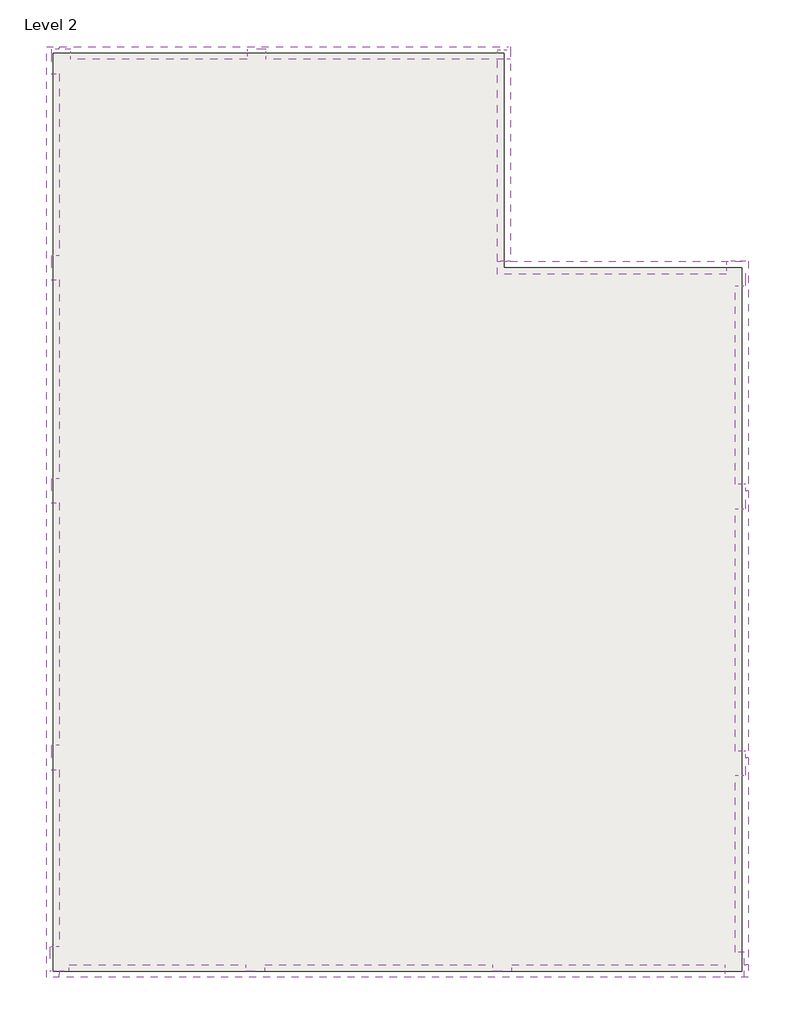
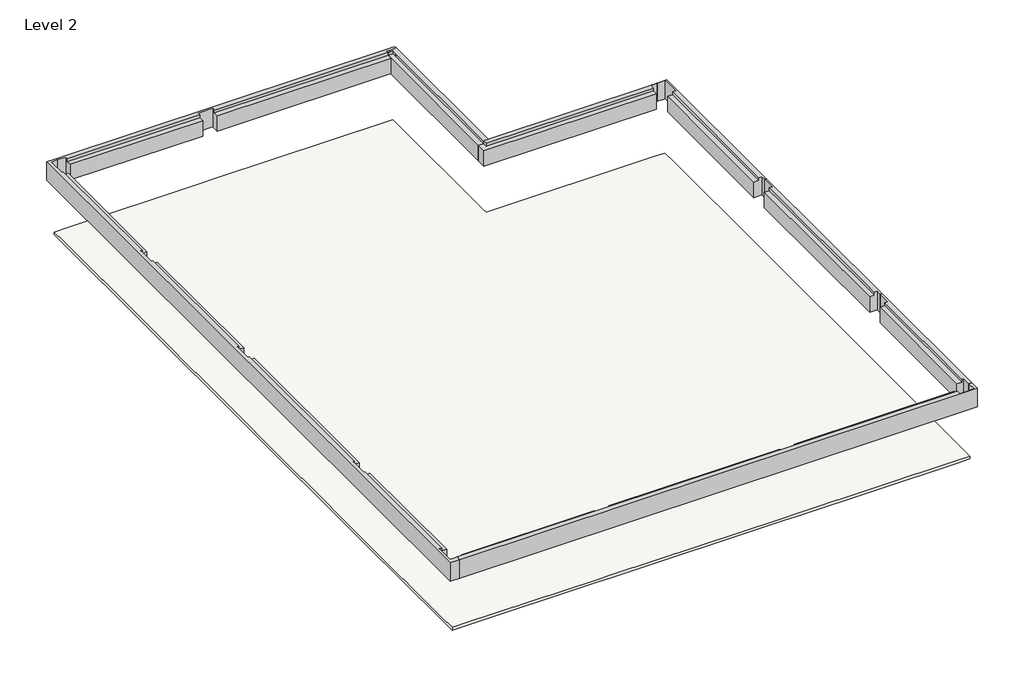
# One storey: 8 beams, 1 slab.
"""IFC4 building model written with IfcOpenShell, lengths in millimetres."""

import ifcopenshell
import ifcopenshell.guid

model = None  # the IFC model being written
_history = None  # IfcOwnerHistory: only IFC2X3 demands one
_inside = {}  # id of a spatial element -> (the spatial element, [elements in it])
_under = {}  # id of a project, library or spatial element -> (it, [spatial elements below it])
_declared = {}  # id of a project -> (the project, [libraries it declares])
_typed = {}  # id of a type object -> (the type object, [elements of that type])
_made_of = {}  # id of a material, layer set ... -> (it, [elements and type objects made of it])


def new_model(schema):
    """Start an empty IFC model of exactly this schema.

    Asked for "IFC4X3", IfcOpenShell would pick the latest addendum, in which some entities
    have other attributes; the version numbers below select the first issue.
    IFC2X3 requires an IfcOwnerHistory on every rooted entity: one is made here for all.
    """
    global model, _history
    if schema == "IFC4X3":
        model = ifcopenshell.file(schema_version=(4, 3, 0, 0))
    else:
        model = ifcopenshell.file(schema=schema)
    _inside.clear()
    _under.clear()
    _declared.clear()
    _typed.clear()
    _made_of.clear()
    _history = None
    if model.schema == "IFC2X3":
        org = make("IfcOrganization", Name="unknown")
        user = make(
            "IfcPersonAndOrganization",
            ThePerson=make("IfcPerson", FamilyName="unknown"),
            TheOrganization=org,
        )
        app = make(
            "IfcApplication",
            ApplicationDeveloper=org,
            Version="unknown",
            ApplicationFullName="unknown",
            ApplicationIdentifier="unknown",
        )
        _history = make(
            "IfcOwnerHistory",
            OwningUser=user,
            OwningApplication=app,
            ChangeAction="ADDED",
            CreationDate=0,
        )
    return model


def make(cls, **values):
    """One entity of the class cls with the attributes given. An attribute that is None is left unset."""
    return model.create_entity(
        cls, **{name: value for name, value in values.items() if value is not None}
    )


def rooted(cls, **values):
    """An entity with a GlobalId (a new one), such as an element, a storey or a relation."""
    return make(cls, GlobalId=ifcopenshell.guid.new(), OwnerHistory=_history, **values)


def si_unit(unit_type, name, prefix=None):
    """IfcSIUnit, for example si_unit("LENGTHUNIT", "METRE", prefix="MILLI")."""
    return make("IfcSIUnit", UnitType=unit_type, Prefix=prefix, Name=name)


def assignment(units):
    """IfcUnitAssignment: the units of a project."""
    return None if units is None else make("IfcUnitAssignment", Units=units)


def point(xyz):
    """IfcCartesianPoint."""
    return None if xyz is None else make("IfcCartesianPoint", Coordinates=xyz)


def direction(xyz):
    """IfcDirection."""
    return None if xyz is None else make("IfcDirection", DirectionRatios=xyz)


def frame(location, z_axis=None, x_axis=None):
    """IfcAxis2Placement3D, a coordinate frame: its origin and axes. An axis left out is left unset."""
    return make(
        "IfcAxis2Placement3D",
        Location=point(location),
        Axis=direction(z_axis),
        RefDirection=direction(x_axis),
    )


def origin():
    """The frame at (0, 0, 0) with its axes left unset."""
    return frame((0.0, 0.0, 0.0))


def place(relative_to, where):
    """IfcLocalPlacement: puts the frame where relative to a parent placement (None: the world)."""
    return make(
        "IfcLocalPlacement", PlacementRelTo=relative_to, RelativePlacement=where
    )


def context(
    kind, dimensions, precision=None, world=None, true_north=None, identifier=None
):
    """IfcGeometricRepresentationContext, for example the 3D "Model" context."""
    return make(
        "IfcGeometricRepresentationContext",
        ContextIdentifier=identifier,
        ContextType=kind,
        CoordinateSpaceDimension=dimensions,
        Precision=precision,
        WorldCoordinateSystem=world,
        TrueNorth=true_north,
    )


def project(units=None, contexts=None):
    """IfcProject with its units and contexts."""
    return rooted(
        "IfcProject",
        Name="project",
        RepresentationContexts=contexts,
        UnitsInContext=assignment(units),
    )


def spatial(cls, under=None, at=None, **own):
    """A site, building, storey or space (cls), placed at a placement, below another one or the project."""
    s = rooted(cls, ObjectPlacement=at, **own)
    if under is not None:
        _under.setdefault(under.id(), (under, []))[1].append(s)
    return s


def faces_of(points, faces, orient=None, outer=None):
    """IfcFace entities. A face is a list of loops; a loop is a list of indices into points, from 0.

    orient and outer hold one flag for each loop. By default every Orientation is true, the
    first loop of a face is its IfcFaceOuterBound and the others are IfcFaceBound.
    """
    made = []
    for i, loops in enumerate(faces):
        bounds = []
        for j, loop in enumerate(loops):
            is_outer = j == 0 if outer is None else outer[i][j]
            bounds.append(
                make(
                    "IfcFaceOuterBound" if is_outer else "IfcFaceBound",
                    Bound=make("IfcPolyLoop", Polygon=[points[k] for k in loop]),
                    Orientation=True if orient is None else orient[i][j],
                )
            )
        made.append(make("IfcFace", Bounds=bounds))
    return made


def faceted_brep(points, faces, orient=None, outer=None, voids=None):
    """IfcFacetedBrep: a solid bounded by flat faces; with voids (closed shells), ...WithVoids."""
    shared = [point(p) for p in points]
    hull = make("IfcClosedShell", CfsFaces=faces_of(shared, faces, orient, outer))
    if voids is None:
        return make("IfcFacetedBrep", Outer=hull)
    return make(
        "IfcFacetedBrepWithVoids",
        Outer=hull,
        Voids=[
            make(cls, CfsFaces=faces_of(shared, fs, o, b)) for cls, fs, o, b in voids
        ],
    )


def shape(context_of_items, identifier, shape_type, items):
    """IfcShapeRepresentation: the items that make up one representation, for example the "Body"."""
    return make(
        "IfcShapeRepresentation",
        ContextOfItems=context_of_items,
        RepresentationIdentifier=identifier,
        RepresentationType=shape_type,
        Items=items,
    )


def made_of(thing, what):
    """Note that an element or type object is made of a material, layer set ...; save() writes the relation."""
    if what is not None:
        _made_of.setdefault(what.id(), (what, []))[1].append(thing)
    return thing


def element(
    cls,
    number,
    at=None,
    inside=None,
    cuts=None,
    type_object=None,
    material=None,
    context=None,
    identifier="Body",
    shape_type=None,
    held_by="IfcProductDefinitionShape",
    body=None,
    shapes=None,
    **own,
):
    """One element of the class cls, such as IfcWall. Its Tag is "e" and its number.

    at: its placement. inside: the storey or other place that contains it. cuts: it is an
    opening in that element (IfcRelVoidsElement). A single representation is given by context,
    identifier, shape_type and body (its items); several are given by shapes. held_by: the class
    of the entity that holds the representations. save() writes the other relations.
    """
    e = rooted(cls, Tag="e%d" % number, ObjectPlacement=at, **own)
    if body is not None:
        shapes = [shape(context, identifier, shape_type, body)]
    if shapes is not None:
        e.Representation = make(held_by, Representations=shapes)
    if inside is not None:
        _inside.setdefault(inside.id(), (inside, []))[1].append(e)
    if cuts is not None:
        rooted(
            "IfcRelVoidsElement", RelatingBuildingElement=cuts, RelatedOpeningElement=e
        )
    if type_object is not None:
        _typed.setdefault(type_object.id(), (type_object, []))[1].append(e)
    return made_of(e, material)


def aggregate(whole, parts):
    """IfcRelAggregates: a whole, such as a stair, and the parts it consists of."""
    return rooted("IfcRelAggregates", RelatingObject=whole, RelatedObjects=parts)


def save(model, path):
    """Write the relations noted so far, then the file.

    IfcRelAggregates (storeys below a building ...), IfcRelContainedInSpatialStructure (elements
    in a storey), IfcRelDefinesByType, IfcRelAssociatesMaterial and IfcRelDeclares: one each for
    every whole, place, type object, material and project.
    """
    for whole, parts in _under.values():
        aggregate(whole, parts)
    for where, things in _inside.values():
        rooted(
            "IfcRelContainedInSpatialStructure",
            RelatedElements=things,
            RelatingStructure=where,
        )
    for kind, things in _typed.values():
        rooted("IfcRelDefinesByType", RelatedObjects=things, RelatingType=kind)
    for what, things in _made_of.values():
        rooted("IfcRelAssociatesMaterial", RelatedObjects=things, RelatingMaterial=what)
    for by, libraries in _declared.values():
        rooted("IfcRelDeclares", RelatingContext=by, RelatedDefinitions=libraries)
    model.write(path)


model = new_model("IFC4")

# Units and contexts
model_context = context("Model", 3, world=origin())
ifc_project = project(units=[si_unit("LENGTHUNIT", "METRE", prefix="MILLI")], contexts=[model_context])

# Site, building, storey
site = spatial("IfcSite", under=ifc_project)
building = spatial("IfcBuilding", under=site)
storey = spatial("IfcBuildingStorey", under=building, Name="Level 2", Elevation=3048.0)

# Beams
placement = place(None, origin())
element("IfcBeam", 1, ObjectType="Concrete-Rectangular Beam : 16 x 32", at=placement, inside=storey, context=model_context, shape_type="Brep", body=[
    faceted_brep([(-15975.9923576, 18300.6217357, 6096.0), (-16382.3923576, 18300.6217357, 6096.0), (-16382.3923576, -10950.0239291, 6096.0), (-15975.9923576, -10950.0239291, 6096.0), (-15975.9923576, -10746.8239291, 6096.0), (-16179.1923576, -10746.8239291, 6096.0), (-16280.7923576, -10746.8239291, 6096.0), (-16280.7923576, -9984.8239291, 6096.0), (-16179.1923576, -9984.8239291, 6096.0), (-16179.1923576, -4422.2239291, 6096.0), (-16236.8047678, -4422.2239291, 6096.0), (-16236.8047678, -3660.2239291, 6096.0), (-16179.1923576, -3660.2239291, 6096.0), (-16179.1923576, 3959.7760709, 6096.0), (-16236.8047678, 3959.7760709, 6096.0), (-16236.8047678, 4721.7760709, 6096.0), (-16179.1923576, 4721.7760709, 6096.0), (-16179.1923576, 10970.1760709, 6096.0), (-16236.8047678, 10970.1760709, 6096.0), (-16236.8047678, 11732.1760709, 6096.0), (-16179.1923576, 11732.1760709, 6096.0), (-16179.1923576, 17448.7872446, 6096.0), (-16236.8047678, 17448.7872446, 6096.0), (-16236.8047678, 18210.7872446, 6096.0), (-15975.9923576, 18210.7872446, 6096.0), (-16382.3923576, 18300.6217357, 5283.2), (-16382.3923576, -10950.0239291, 5283.2), (-16236.8047678, 17448.7872446, 5283.2), (-15975.9923576, 17448.7872446, 5283.2), (-15975.9923576, 11732.1760709, 5283.2), (-16236.8047678, 11732.1760709, 5283.2), (-16236.8047678, 10970.1760709, 5283.2), (-15975.9923576, 10970.1760709, 5283.2), (-15975.9923576, 4721.7760709, 5283.2), (-16236.8047678, 4721.7760709, 5283.2), (-16236.8047678, 3959.7760709, 5283.2), (-15975.9923576, 3959.7760709, 5283.2), (-15975.9923576, -3660.2239291, 5283.2), (-16236.8047678, -3660.2239291, 5283.2), (-16236.8047678, -4422.2239291, 5283.2), (-15975.9923576, -4422.2239291, 5283.2), (-15975.9923576, -9984.8239291, 5283.2), (-16280.7923576, -9984.8239291, 5283.2), (-16280.7923576, -10746.8239291, 5283.2), (-15975.9923576, -10746.8239291, 5283.2), (-15975.9923576, -10950.0239291, 5283.2), (-15975.9923576, 18300.6217357, 5283.2), (-15975.9923576, 18210.7872446, 5283.2), (-16236.8047678, 18210.7872446, 5283.2), (-15975.9923576, -10746.8239291, 5969.0), (-16179.1923576, 17448.7872446, 5969.0), (-15975.9923576, 17448.7872446, 5969.0), (-15975.9923576, -9984.8239291, 5969.0), (-16179.1923576, -9984.8239291, 5969.0), (-16179.1923576, 10970.1760709, 5969.0), (-15975.9923576, 10970.1760709, 5969.0), (-15975.9923576, 11732.1760709, 5969.0), (-16179.1923576, 11732.1760709, 5969.0), (-16179.1923576, 3959.7760709, 5969.0), (-15975.9923576, 3959.7760709, 5969.0), (-15975.9923576, 4721.7760709, 5969.0), (-16179.1923576, 4721.7760709, 5969.0), (-16179.1923576, -4422.2239291, 5969.0), (-15975.9923576, -4422.2239291, 5969.0), (-15975.9923576, -3660.2239291, 5969.0), (-16179.1923576, -3660.2239291, 5969.0)], [[[0, 1, 2, 3, 4, 5, 6, 7, 8, 9, 10, 11, 12, 13, 14, 15, 16, 17, 18, 19, 20, 21, 22, 23, 24]], [[1, 25, 26, 2]], [[27, 28, 29, 30, 31, 32, 33, 34, 35, 36, 37, 38, 39, 40, 41, 42, 43, 44, 45, 26, 25, 46, 47, 48]], [[3, 45, 44, 49, 4]], [[28, 27, 22, 21, 50, 51]], [[42, 41, 52, 53, 8, 7]], [[32, 31, 18, 17, 54, 55]], [[30, 29, 56, 57, 20, 19]], [[36, 35, 14, 13, 58, 59]], [[34, 33, 60, 61, 16, 15]], [[40, 39, 10, 9, 62, 63]], [[38, 37, 64, 65, 12, 11]], [[50, 57, 56, 51]], [[53, 62, 9, 8]], [[54, 61, 60, 55]], [[58, 65, 64, 59]], [[62, 53, 52, 63]], [[65, 58, 13, 12]], [[61, 54, 17, 16]], [[57, 50, 21, 20]], [[1, 0, 46, 25]], [[3, 2, 26, 45]], [[22, 27, 48, 23]], [[42, 7, 6, 43]], [[18, 31, 30, 19]], [[14, 35, 34, 15]], [[10, 39, 38, 11]], [[23, 48, 47, 24]], [[46, 0, 24, 47]], [[43, 6, 5, 4, 49, 44]], [[41, 40, 63, 52]], [[29, 28, 51, 56]], [[33, 32, 55, 60]], [[37, 36, 59, 64]]]),
])
element("IfcBeam", 2, ObjectType="Concrete-Rectangular Beam : 16 x 32", at=placement, inside=storey, context=model_context, shape_type="Brep", body=[
    faceted_brep([(5678.6233565, -10950.0239291, 6096.0), (5678.6233565, -10543.6239291, 6096.0), (5557.2160403, -10543.6239291, 6096.0), (5557.2160403, -10925.8436556, 6096.0), (4947.6160403, -10925.8436556, 6096.0), (4947.6160403, -10746.8239291, 6096.0), (-15975.9923576, -10746.8239291, 6096.0), (-15975.9923576, -10950.0239291, 6096.0), (5678.6233565, -10950.0239291, 5283.2), (-15975.9923576, -10950.0239291, 5283.2), (-15671.1923576, -10746.8239291, 5283.2), (-15671.1923576, -10543.6239291, 5283.2), (-10127.1799474, -10543.6239291, 5283.2), (-10127.1799474, -10746.8239291, 5283.2), (-9517.5799474, -10746.8239291, 5283.2), (-9517.5799474, -10543.6239291, 5283.2), (-2354.7799474, -10543.6239291, 5283.2), (-2354.7799474, -10746.8239291, 5283.2), (-1745.1799474, -10746.8239291, 5283.2), (-1745.1799474, -10543.6239291, 5283.2), (4947.6160403, -10543.6239291, 5283.2), (4947.6160403, -10925.8436556, 5283.2), (5557.2160403, -10925.8436556, 5283.2), (5557.2160403, -10543.6239291, 5283.2), (5678.6233565, -10543.6239291, 5283.2), (-15975.9923576, -10746.8239291, 5283.2), (-15671.1923576, -10746.8239291, 5969.0), (-15671.1923576, -10543.6239291, 5969.0), (4947.6160403, -10543.6239291, 5969.0), (4947.6160403, -10746.8239291, 5969.0), (-9517.5799474, -10746.8239291, 5969.0), (-9517.5799474, -10543.6239291, 5969.0), (-10127.1799474, -10543.6239291, 5969.0), (-10127.1799474, -10746.8239291, 5969.0), (-1745.1799474, -10746.8239291, 5969.0), (-1745.1799474, -10543.6239291, 5969.0), (-2354.7799474, -10543.6239291, 5969.0), (-2354.7799474, -10746.8239291, 5969.0)], [[[0, 1, 2, 3, 4, 5, 6, 7]], [[8, 0, 7, 9]], [[10, 11, 12, 13, 14, 15, 16, 17, 18, 19, 20, 21, 22, 23, 24, 8, 9, 25]], [[1, 24, 23, 2]], [[9, 7, 6, 25]], [[11, 10, 26, 27]], [[21, 20, 28, 29, 5, 4]], [[15, 14, 30, 31]], [[13, 12, 32, 33]], [[19, 18, 34, 35]], [[17, 16, 36, 37]], [[26, 33, 32, 27]], [[30, 37, 36, 31]], [[34, 29, 28, 35]], [[1, 0, 8, 24]], [[3, 2, 23, 22]], [[37, 30, 14, 13, 33, 26, 10, 25, 6, 5, 29, 34, 18, 17]], [[3, 22, 21, 4]], [[20, 19, 35, 28]], [[12, 11, 27, 32]], [[16, 15, 31, 36]]]),
])
element("IfcBeam", 3, ObjectType="Concrete-Rectangular Beam : 16 x 32", at=placement, inside=storey, context=model_context, shape_type="Brep", body=[
    faceted_brep([(5601.20363, -4601.2436556, 6096.0), (5475.4233565, -4601.2436556, 6096.0), (5475.4233565, -10163.8436556, 6096.0), (5557.2160403, -10163.8436556, 6096.0), (5557.2160403, -10543.6239291, 6096.0), (5678.6233565, -10543.6239291, 6096.0), (5678.6233565, -4041.2239291, 6096.0), (5601.20363, -4041.2239291, 6096.0), (5678.6233565, -4041.2239291, 5283.2), (5678.6233565, -10543.6239291, 5283.2), (5272.2233565, -4601.2436556, 5283.2), (5601.20363, -4601.2436556, 5283.2), (5601.20363, -4041.2239291, 5283.2), (5557.2160403, -10543.6239291, 5283.2), (5557.2160403, -10163.8436556, 5283.2), (5272.2233565, -10163.8436556, 5283.2), (5272.2233565, -4601.2436556, 5969.0), (5272.2233565, -10163.8436556, 5969.0), (5475.4233565, -4601.2436556, 5969.0), (5475.4233565, -10163.8436556, 5969.0)], [[[0, 1, 2, 3, 4, 5, 6, 7]], [[8, 6, 5, 9]], [[10, 11, 12, 8, 9, 13, 14, 15]], [[16, 10, 15, 17]], [[6, 8, 12, 7]], [[9, 5, 4, 13]], [[11, 10, 16, 18, 1, 0]], [[18, 16, 17, 19]], [[1, 18, 19, 2]], [[11, 0, 7, 12]], [[3, 14, 13, 4]], [[14, 3, 2, 19, 17, 15]]]),
])
element("IfcBeam", 4, ObjectType="Concrete-Rectangular Beam : 16 x 32", at=placement, inside=storey, context=model_context, shape_type="Brep", body=[
    faceted_brep([(5678.6233565, -4041.2239291, 6096.0), (5678.6233565, 4340.7760709, 6096.0), (5601.20363, 4340.7760709, 6096.0), (5601.20363, 3780.7563444, 6096.0), (5475.4233565, 3780.7563444, 6096.0), (5475.4233565, -3839.2436556, 6096.0), (5601.20363, -3839.2436556, 6096.0), (5601.20363, -4041.2239291, 6096.0), (5678.6233565, -4041.2239291, 5283.2), (5678.6233565, 4340.7760709, 5283.2), (5601.20363, -4041.2239291, 5283.2), (5601.20363, -3839.2436556, 5283.2), (5272.2233565, -3839.2436556, 5283.2), (5272.2233565, 3780.7563444, 5283.2), (5601.20363, 3780.7563444, 5283.2), (5601.20363, 4340.7760709, 5283.2), (5272.2233565, -3839.2436556, 5969.0), (5272.2233565, 3780.7563444, 5969.0), (5475.4233565, 3780.7563444, 5969.0), (5475.4233565, -3839.2436556, 5969.0)], [[[0, 1, 2, 3, 4, 5, 6, 7]], [[1, 0, 8, 9]], [[9, 8, 10, 11, 12, 13, 14, 15]], [[13, 12, 16, 17]], [[1, 9, 15, 2]], [[8, 0, 7, 10]], [[14, 13, 17, 18, 4, 3]], [[12, 11, 6, 5, 19, 16]], [[19, 18, 17, 16]], [[18, 19, 5, 4]], [[14, 3, 2, 15]], [[6, 11, 10, 7]]]),
])
element("IfcBeam", 5, ObjectType="Concrete-Rectangular Beam : 16 x 32", at=placement, inside=storey, context=model_context, shape_type="Brep", body=[
    faceted_brep([(5678.6233565, 4340.7760709, 6096.0), (5678.6233565, 11554.3760709, 6096.0), (5272.2233565, 11554.3760709, 6096.0), (5272.2233565, 11553.1563444, 6096.0), (5601.20363, 11553.1563444, 6096.0), (5601.20363, 10791.1563444, 6096.0), (5475.4233565, 10791.1563444, 6096.0), (5475.4233565, 4542.7563444, 6096.0), (5601.20363, 4542.7563444, 6096.0), (5601.20363, 4340.7760709, 6096.0), (5678.6233565, 4340.7760709, 5283.2), (5678.6233565, 11554.3760709, 5283.2), (5272.2233565, 10791.1563444, 5283.2), (5601.20363, 10791.1563444, 5283.2), (5601.20363, 11553.1563444, 5283.2), (5272.2233565, 11553.1563444, 5283.2), (5272.2233565, 11554.3760709, 5283.2), (5601.20363, 4340.7760709, 5283.2), (5601.20363, 4542.7563444, 5283.2), (5272.2233565, 4542.7563444, 5283.2), (5272.2233565, 4542.7563444, 5969.0), (5272.2233565, 10791.1563444, 5969.0), (5475.4233565, 10791.1563444, 5969.0), (5475.4233565, 4542.7563444, 5969.0)], [[[0, 1, 2, 3, 4, 5, 6, 7, 8, 9]], [[0, 10, 11, 1]], [[12, 13, 14, 15, 16, 11, 10, 17, 18, 19]], [[12, 19, 20, 21]], [[10, 0, 9, 17]], [[13, 12, 21, 22, 6, 5]], [[19, 18, 8, 7, 23, 20]], [[23, 22, 21, 20]], [[22, 23, 7, 6]], [[2, 1, 11, 16]], [[13, 5, 4, 14]], [[14, 4, 3, 15]], [[2, 16, 15, 3]], [[8, 18, 17, 9]]]),
])
element("IfcBeam", 6, ObjectType="Concrete-Rectangular Beam : 16 x 32", at=placement, inside=storey, context=model_context, shape_type="Brep", body=[
    faceted_brep([(5272.2233565, 11553.1563444, 6096.0), (5272.2233565, 11554.3760709, 6096.0), (-1802.7923576, 11554.3760709, 6096.0), (-2005.9923576, 11554.3760709, 6096.0), (-2005.9923576, 11351.1760709, 6096.0), (4991.60363, 11351.1760709, 6096.0), (4991.60363, 11553.1563444, 6096.0), (5272.2233565, 11554.3760709, 5283.2), (-1802.7923576, 11554.3760709, 5283.2), (-2209.1923576, 11554.3760709, 5283.2), (-2209.1923576, 11554.3760709, 5969.0), (-2005.9923576, 11554.3760709, 5969.0), (4991.60363, 11553.1563444, 5283.2), (4991.60363, 11147.9760709, 5283.2), (-2209.1923576, 11147.9760709, 5283.2), (5272.2233565, 11553.1563444, 5283.2), (4991.60363, 11147.9760709, 5969.0), (-2209.1923576, 11147.9760709, 5969.0), (4991.60363, 11351.1760709, 5969.0), (-2005.9923576, 11351.1760709, 5969.0)], [[[0, 1, 2, 3, 4, 5, 6]], [[7, 8, 9, 10, 11, 3, 2, 1]], [[12, 13, 14, 9, 8, 7, 15]], [[14, 13, 16, 17]], [[7, 1, 0, 15]], [[13, 12, 6, 5, 18, 16]], [[18, 19, 11, 10, 17, 16]], [[19, 4, 3, 11]], [[4, 19, 18, 5]], [[9, 14, 17, 10]], [[6, 12, 15, 0]]]),
])
element("IfcBeam", 7, ObjectType="Concrete-Rectangular Beam : 16 x 32", at=placement, inside=storey, context=model_context, shape_type="Brep", body=[
    faceted_brep([(-1802.7923576, 18199.0217357, 6096.0), (-2005.9923576, 18199.0217357, 6096.0), (-2209.1923576, 18199.0217357, 6096.0), (-2209.1923576, 18097.4217357, 6096.0), (-2005.9923576, 18097.4217357, 6096.0), (-2005.9923576, 11554.3760709, 6096.0), (-1802.7923576, 11554.3760709, 6096.0), (-1802.7923576, 11554.3760709, 5283.2), (-1802.7923576, 18199.0217357, 5283.2), (-2209.1923576, 11554.3760709, 5283.2), (-2209.1923576, 18199.0217357, 5283.2), (-2209.1923576, 11554.3760709, 5969.0), (-2209.1923576, 18097.4217357, 5969.0), (-2005.9923576, 11554.3760709, 5969.0), (-2005.9923576, 18097.4217357, 5969.0)], [[[0, 1, 2, 3, 4, 5, 6]], [[6, 7, 8, 0]], [[7, 9, 10, 8]], [[2, 10, 9, 11, 12, 3]], [[7, 6, 5, 13, 11, 9]], [[13, 14, 12, 11]], [[4, 14, 13, 5]], [[2, 1, 0, 8, 10]], [[14, 4, 3, 12]]]),
])
element("IfcBeam", 8, ObjectType="Concrete-Rectangular Beam : 16 x 32", at=placement, inside=storey, context=model_context, shape_type="Brep", body=[
    faceted_brep([(-1802.7923576, 17894.2217357, 6096.0), (-1802.7923576, 18300.6217357, 6096.0), (-1904.3923576, 18300.6217357, 6096.0), (-15975.9923576, 18300.6217357, 6096.0), (-15975.9923576, 18210.7872446, 6096.0), (-15627.2047678, 18210.7872446, 6096.0), (-15627.2047678, 18097.4217357, 6096.0), (-10083.1923576, 18097.4217357, 6096.0), (-10083.1923576, 18199.0217357, 6096.0), (-10083.1923576, 18210.7872446, 6096.0), (-9473.5923576, 18210.7872446, 6096.0), (-9473.5923576, 18199.0217357, 6096.0), (-9473.5923576, 18097.4217357, 6096.0), (-2005.9923576, 18097.4217357, 6096.0), (-2005.9923576, 17894.2217357, 6096.0), (-1802.7923576, 18300.6217357, 5283.2), (-15975.9923576, 18300.6217357, 5283.2), (-15627.2047678, 17894.2217357, 5283.2), (-15627.2047678, 18210.7872446, 5283.2), (-15975.9923576, 18210.7872446, 5283.2), (-1802.7923576, 17894.2217357, 5283.2), (-9473.5923576, 17894.2217357, 5283.2), (-9473.5923576, 18210.7872446, 5283.2), (-10083.1923576, 18210.7872446, 5283.2), (-10083.1923576, 17894.2217357, 5283.2), (-10083.1923576, 17894.2217357, 5969.0), (-15627.2047678, 17894.2217357, 5969.0), (-15627.2047678, 18097.4217357, 5969.0), (-9473.5923576, 17894.2217357, 5969.0), (-9473.5923576, 18097.4217357, 5969.0), (-10083.1923576, 18097.4217357, 5969.0), (-2005.9923576, 17894.2217357, 5969.0), (-2005.9923576, 18097.4217357, 5969.0)], [[[0, 1, 2, 3, 4, 5, 6, 7, 8, 9, 10, 11, 12, 13, 14]], [[1, 15, 16, 3, 2]], [[17, 18, 19, 16, 15, 20, 21, 22, 23, 24]], [[17, 24, 25, 26]], [[3, 16, 19, 4]], [[18, 17, 26, 27, 6, 5]], [[22, 21, 28, 29, 12, 11, 10]], [[24, 23, 9, 8, 7, 30, 25]], [[20, 0, 14, 31, 28, 21]], [[30, 27, 26, 25]], [[27, 30, 7, 6]], [[31, 32, 29, 28]], [[32, 13, 12, 29]], [[1, 0, 20, 15]], [[13, 32, 31, 14]], [[18, 5, 4, 19]], [[9, 23, 22, 10]]]),
])

# Slab
element("IfcSlab", 9, ObjectType="3\" LW Concrete on 2\" Metal Deck", at=placement, inside=storey, context=model_context, shape_type="Brep", body=[
    faceted_brep([(-16179.1923576, 18097.4217357, 2921.0), (-15627.2047678, 18097.4217357, 2921.0), (-10083.1923576, 18097.4217357, 2921.0), (-9473.5923576, 18097.4217357, 2921.0), (-2209.1923576, 18097.4217357, 2921.0), (-2005.9923576, 18097.4217357, 2921.0), (-2005.9923576, 11554.3760709, 2921.0), (-2005.9923576, 11351.1760709, 2921.0), (4991.60363, 11351.1760709, 2921.0), (5475.4233565, 11351.1760709, 2921.0), (5475.4233565, 10791.1563444, 2921.0), (5475.4233565, 4542.7563444, 2921.0), (5475.4233565, 4340.7760709, 2921.0), (5475.4233565, 3780.7563444, 2921.0), (5475.4233565, -3839.2436556, 2921.0), (5475.4233565, -4041.2239291, 2921.0), (5475.4233565, -4601.2436556, 2921.0), (5475.4233565, -10163.8436556, 2921.0), (5475.4233565, -10746.8239291, 2921.0), (4947.6160403, -10746.8239291, 2921.0), (-1745.1799474, -10746.8239291, 2921.0), (-2354.7799474, -10746.8239291, 2921.0), (-9517.5799474, -10746.8239291, 2921.0), (-10127.1799474, -10746.8239291, 2921.0), (-15671.1923576, -10746.8239291, 2921.0), (-16179.1923576, -10746.8239291, 2921.0), (-16179.1923576, -9984.8239291, 2921.0), (-16179.1923576, -4422.2239291, 2921.0), (-16179.1923576, -3660.2239291, 2921.0), (-16179.1923576, 3959.7760709, 2921.0), (-16179.1923576, 4721.7760709, 2921.0), (-16179.1923576, 10970.1760709, 2921.0), (-16179.1923576, 11732.1760709, 2921.0), (-16179.1923576, 17448.7872446, 2921.0), (-16179.1923576, 18097.4217357, 3048.0), (-16179.1923576, 17448.7872446, 3048.0), (-16179.1923576, 11732.1760709, 3048.0), (-16179.1923576, 10970.1760709, 3048.0), (-16179.1923576, 4721.7760709, 3048.0), (-16179.1923576, 3959.7760709, 3048.0), (-16179.1923576, -3660.2239291, 3048.0), (-16179.1923576, -4422.2239291, 3048.0), (-16179.1923576, -9984.8239291, 3048.0), (-16179.1923576, -10746.8239291, 3048.0), (-15975.9923576, -10746.8239291, 3048.0), (-15671.1923576, -10746.8239291, 3048.0), (-10127.1799474, -10746.8239291, 3048.0), (-9517.5799474, -10746.8239291, 3048.0), (-2354.7799474, -10746.8239291, 3048.0), (-1745.1799474, -10746.8239291, 3048.0), (4947.6160403, -10746.8239291, 3048.0), (5475.4233565, -10746.8239291, 3048.0), (5475.4233565, -10163.8436556, 3048.0), (5475.4233565, -4601.2436556, 3048.0), (5475.4233565, -4041.2239291, 3048.0), (5475.4233565, -3839.2436556, 3048.0), (5475.4233565, 3780.7563444, 3048.0), (5475.4233565, 4340.7760709, 3048.0), (5475.4233565, 4542.7563444, 3048.0), (5475.4233565, 10791.1563444, 3048.0), (5475.4233565, 11351.1760709, 3048.0), (4991.60363, 11351.1760709, 3048.0), (-2005.9923576, 11351.1760709, 3048.0), (-2005.9923576, 11554.3760709, 3048.0), (-2005.9923576, 18097.4217357, 3048.0), (-2209.1923576, 18097.4217357, 3048.0), (-9473.5923576, 18097.4217357, 3048.0), (-10083.1923576, 18097.4217357, 3048.0), (-15627.2047678, 18097.4217357, 3048.0)], [[[0, 1, 2, 3, 4, 5, 6, 7, 8, 9, 10, 11, 12, 13, 14, 15, 16, 17, 18, 19, 20, 21, 22, 23, 24, 25, 26, 27, 28, 29, 30, 31, 32, 33]], [[34, 35, 36, 37, 38, 39, 40, 41, 42, 43, 44, 45, 46, 47, 48, 49, 50, 51, 52, 53, 54, 55, 56, 57, 58, 59, 60, 61, 62, 63, 64, 65, 66, 67, 68]], [[5, 4, 3, 2, 1, 0, 34, 68, 67, 66, 65, 64]], [[7, 6, 5, 64, 63, 62]], [[9, 8, 7, 62, 61, 60]], [[12, 11, 10, 9, 60, 59, 58, 57]], [[15, 14, 13, 12, 57, 56, 55, 54]], [[18, 17, 16, 15, 54, 53, 52, 51]], [[25, 24, 23, 22, 21, 20, 19, 18, 51, 50, 49, 48, 47, 46, 45, 44, 43]], [[0, 33, 32, 31, 30, 29, 28, 27, 26, 25, 43, 42, 41, 40, 39, 38, 37, 36, 35, 34]]]),
])

save(model, "model.ifc")
